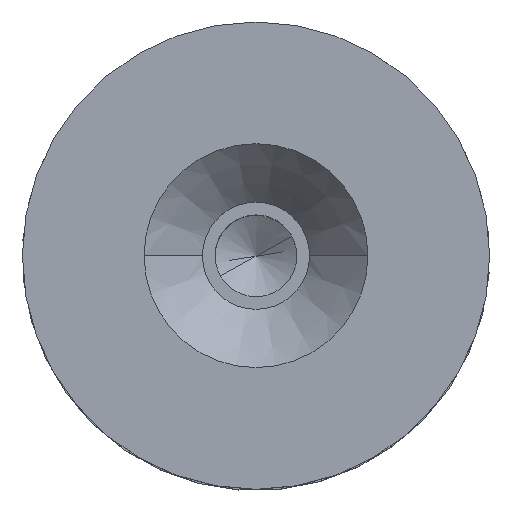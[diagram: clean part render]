
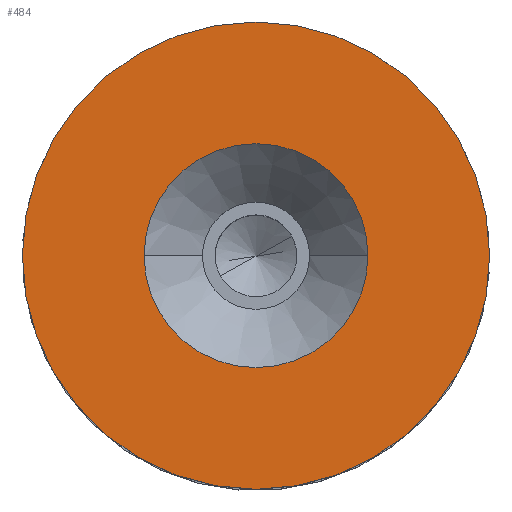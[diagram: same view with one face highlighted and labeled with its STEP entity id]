
A CAD part, top view. The second image highlights one B-rep face of the part: STEP entity #484.
In plain terms, the highlighted planar face has unit normal (0, 0, 1).
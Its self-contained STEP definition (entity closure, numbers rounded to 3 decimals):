
#6 = DIRECTION ( 'NONE',  ( 1., 0., 0. ) ) ;
#10 = DIRECTION ( 'NONE',  ( 0., 0., 1. ) ) ;
#12 = VERTEX_POINT ( 'NONE', #375 ) ;
#35 = EDGE_CURVE ( 'NONE', #51, #269, #391, .T. ) ;
#51 = VERTEX_POINT ( 'NONE', #704 ) ;
#56 = CIRCLE ( 'NONE', #386, 5.75 ) ;
#66 = EDGE_LOOP ( 'NONE', ( #572, #116 ) ) ;
#81 = CARTESIAN_POINT ( 'NONE',  ( 12., 0., 4. ) ) ;
#85 = DIRECTION ( 'NONE',  ( 1., 0., 0. ) ) ;
#93 = DIRECTION ( 'NONE',  ( 0., 0., -1. ) ) ;
#98 = EDGE_CURVE ( 'NONE', #269, #51, #629, .T. ) ;
#112 = EDGE_CURVE ( 'NONE', #655, #12, #722, .T. ) ;
#116 = ORIENTED_EDGE ( 'NONE', *, *, #112, .T. ) ;
#163 = CARTESIAN_POINT ( 'NONE',  ( 0., 0., 4. ) ) ;
#190 = DIRECTION ( 'NONE',  ( 0., 0., 1. ) ) ;
#191 = FACE_BOUND ( 'NONE', #66, .T. ) ;
#250 = CARTESIAN_POINT ( 'NONE',  ( -5.75, 0., 4. ) ) ;
#269 = VERTEX_POINT ( 'NONE', #81 ) ;
#302 = ORIENTED_EDGE ( 'NONE', *, *, #35, .T. ) ;
#309 = CARTESIAN_POINT ( 'NONE',  ( 0., 0., 4. ) ) ;
#313 = DIRECTION ( 'NONE',  ( 1., 0., 0. ) ) ;
#344 = EDGE_CURVE ( 'NONE', #12, #655, #56, .T. ) ;
#352 = DIRECTION ( 'NONE',  ( 1., 0., 0. ) ) ;
#353 = ORIENTED_EDGE ( 'NONE', *, *, #98, .T. ) ;
#375 = CARTESIAN_POINT ( 'NONE',  ( 5.75, 0., 4. ) ) ;
#386 = AXIS2_PLACEMENT_3D ( 'NONE', #437, #93, #762 ) ;
#391 = CIRCLE ( 'NONE', #446, 12. ) ;
#437 = CARTESIAN_POINT ( 'NONE',  ( 0., 0., 4. ) ) ;
#446 = AXIS2_PLACEMENT_3D ( 'NONE', #759, #190, #352 ) ;
#484 = ADVANCED_FACE ( 'NONE', ( #191, #590 ), #504, .T. ) ;
#504 = PLANE ( 'NONE',  #644 ) ;
#526 = AXIS2_PLACEMENT_3D ( 'NONE', #761, #10, #6 ) ;
#531 = EDGE_LOOP ( 'NONE', ( #302, #353 ) ) ;
#556 = DIRECTION ( 'NONE',  ( 0., 0., -1. ) ) ;
#572 = ORIENTED_EDGE ( 'NONE', *, *, #344, .T. ) ;
#590 = FACE_OUTER_BOUND ( 'NONE', #531, .T. ) ;
#629 = CIRCLE ( 'NONE', #526, 12. ) ;
#644 = AXIS2_PLACEMENT_3D ( 'NONE', #309, #702, #313 ) ;
#655 = VERTEX_POINT ( 'NONE', #250 ) ;
#702 = DIRECTION ( 'NONE',  ( 0., 0., 1. ) ) ;
#704 = CARTESIAN_POINT ( 'NONE',  ( -12., 0., 4. ) ) ;
#706 = AXIS2_PLACEMENT_3D ( 'NONE', #163, #556, #85 ) ;
#722 = CIRCLE ( 'NONE', #706, 5.75 ) ;
#759 = CARTESIAN_POINT ( 'NONE',  ( 0., 0., 4. ) ) ;
#761 = CARTESIAN_POINT ( 'NONE',  ( 0., 0., 4. ) ) ;
#762 = DIRECTION ( 'NONE',  ( 1., 0., 0. ) ) ;
